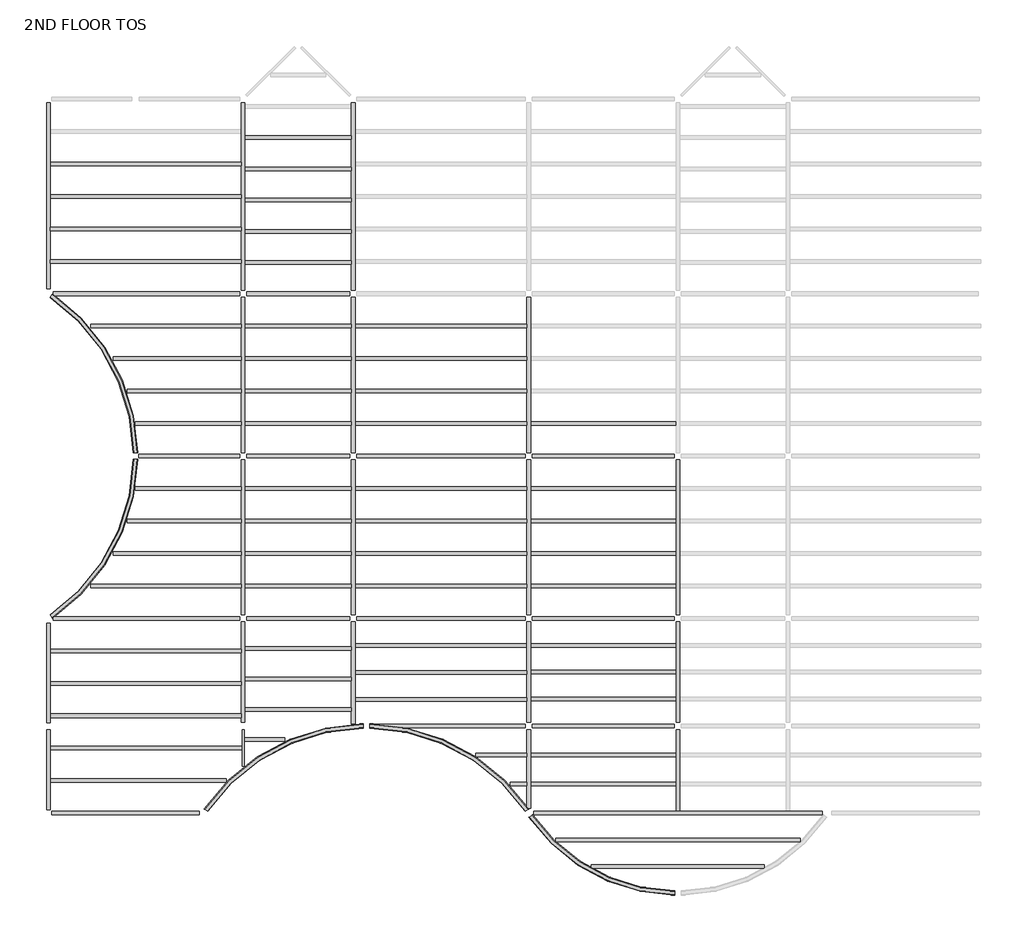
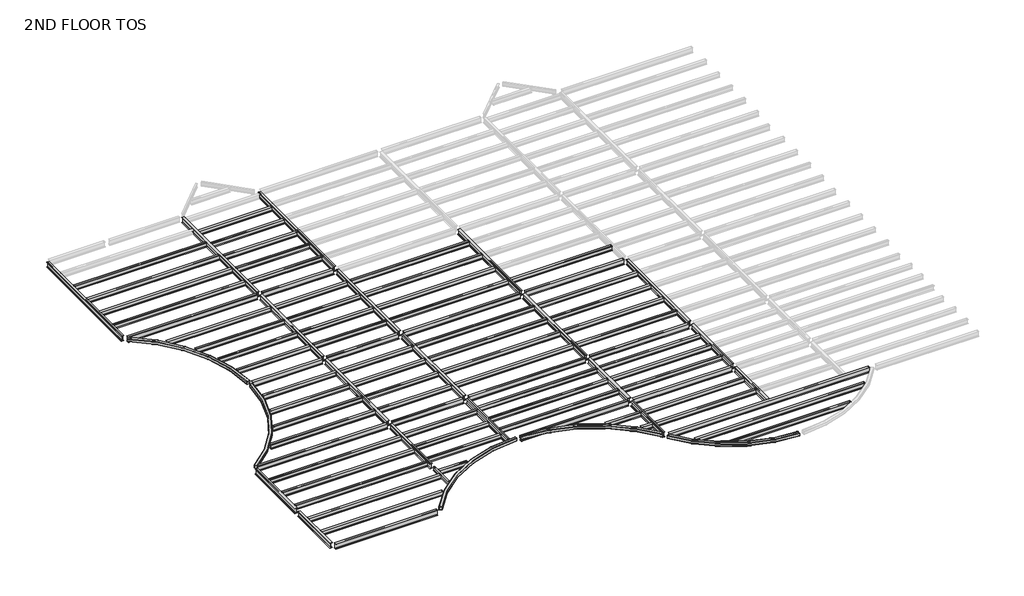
# One storey, part 1 of 2: 97 beams.
"""IFC4 building model written with IfcOpenShell, lengths in millimetres."""

from ifc_helpers import new_model, si_unit, origin, place, context, project, spatial, transform, mapped, element, save
from components import m_hss_square_hss203_2x203_2x9_5_914ff4eb, m_hss_square_hss203_2x203_2x9_5_0e3d8e6e, m_hss_square_hss203_2x203_2x9_5_16dc1c03, m_hss_square_hss203_2x203_2x9_5_18346204, m_hss_square_hss203_2x203_2x9_5_d5f1e8c4, ub_universal_beams_ub254x102x28_4e7f3726, ub_universal_beams_ub305x165x40_c4d0385b, ub_universal_beams_ub305x165x40_d3abc31d, ub_universal_beams_ub305x165x40_0c73730f, ub_universal_beams_ub305x165x40_2a963f0c, ub_universal_beams_ub305x165x40_0a5f2f96, ub_universal_beams_ub305x165x40_d1f7c369, ub_universal_beams_ub305x165x40_83d7b7d5, ub_universal_beams_ub305x165x40_729a4ea5, ub_universal_beams_ub305x165x40_71dfa851, ub_universal_beams_ub305x165x40_619b5398, ub_universal_beams_ub305x165x40_c3492db1, ub_universal_beams_ub305x165x40_8f1c350d, ub_universal_beams_ub305x165x40_3afb5f90, ub_universal_beams_ub305x165x40_767d1929, ub_universal_beams_ub305x165x40_5941ca45, ub_universal_beams_ub356x171x51_ef72dcdd, ub_universal_beams_ub356x171x51_7f80702c, ub_universal_beams_ub356x171x51_dfc36663, ub_universal_beams_ub356x171x51_405a853e, ub_universal_beams_ub356x171x51_e47b7055, ub_universal_beams_ub356x171x51_e97f8d2e, ub_universal_beams_ub356x171x51_11d6b780, ub_universal_beams_ub356x171x51_76b2d20b, ub_universal_beams_ub356x171x51_145ecd4b, ub_universal_beams_ub356x171x51_c7dff8d2, ub_universal_beams_ub356x171x51_834c6e34, ub_universal_beams_ub356x171x51_a38b99de, ub_universal_beams_ub356x171x51_d8f4cdde, ub_universal_beams_ub356x171x51_8094f821, ub_universal_beams_ub356x171x51_c03c70fb, ub_universal_beams_ub356x171x51_e661f2e4, ub_universal_beams_ub356x171x51_3ee91673, ub_universal_beams_ub356x171x51_a871b283, ub_universal_beams_ub356x171x51_741bae58

model = new_model("IFC4")

# Units and contexts
model_context = context("Model", 3, world=origin())
ifc_project = project(units=[si_unit("LENGTHUNIT", "METRE", prefix="MILLI")], contexts=[model_context])

# Site, building, storey
site = spatial("IfcSite", under=ifc_project)
building = spatial("IfcBuilding", under=site)
storey = spatial("IfcBuildingStorey", under=building, Name="2ND FLOOR TOS", Elevation=8991.6)

# Beams
placement = place(None, origin())
m_hss_square_hss203_2x203_2x9_5_shape = m_hss_square_hss203_2x203_2x9_5_914ff4eb(model_context)
element("IfcBeam", 1, ObjectType="M_HSS Square : HSS203.2X203.2X9.5", at=placement, inside=storey, context=model_context, shape_type="MappedRepresentation", body=[
    mapped(m_hss_square_hss203_2x203_2x9_5_shape, transform((22710.575, 155.575, 8890.1), x_axis=(-0.552849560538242, 0.8332810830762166, 0.0), y_axis=(-0.8332810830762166, -0.552849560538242, 0.0), z_axis=(0.0, 0.0, 1.0))),
])
m_hss_square_hss203_2x203_2x9_5_2_shape = m_hss_square_hss203_2x203_2x9_5_0e3d8e6e(model_context)
element("IfcBeam", 2, ObjectType="M_HSS Square : HSS203.2X203.2X9.5", at=placement, inside=storey, context=model_context, shape_type="MappedRepresentation", body=[
    mapped(m_hss_square_hss203_2x203_2x9_5_2_shape, transform((155.575, 9299.575, 8890.1), x_axis=(0.8332810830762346, 0.5528495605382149, 0.0), y_axis=(-0.5528495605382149, 0.8332810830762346, 0.0), z_axis=(0.0, 0.0, 1.0))),
])
m_hss_square_hss203_2x203_2x9_5_3_shape = m_hss_square_hss203_2x203_2x9_5_16dc1c03(model_context)
element("IfcBeam", 3, ObjectType="M_HSS Square : HSS203.2X203.2X9.5", at=placement, inside=storey, context=model_context, shape_type="MappedRepresentation", body=[
    mapped(m_hss_square_hss203_2x203_2x9_5_3_shape, transform((155.575, 24539.575, 8890.1), x_axis=(0.8332810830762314, -0.5528495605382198, 0.0), y_axis=(0.5528495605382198, 0.8332810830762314, 0.0), z_axis=(0.0, 0.0, 1.0))),
])
m_hss_square_hss203_2x203_2x9_5_4_shape = m_hss_square_hss203_2x203_2x9_5_18346204(model_context)
element("IfcBeam", 4, ObjectType="M_HSS Square : HSS203.2X203.2X9.5", at=placement, inside=storey, context=model_context, shape_type="MappedRepresentation", body=[
    mapped(m_hss_square_hss203_2x203_2x9_5_4_shape, transform((29734.7266693, -3601.398624, 8890.1), x_axis=(-0.9999968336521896, -0.0025164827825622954, 0.0), y_axis=(0.0025164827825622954, -0.9999968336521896, 0.0), z_axis=(0.0, 0.0, 1.0))),
])
m_hss_square_hss203_2x203_2x9_5_5_shape = m_hss_square_hss203_2x203_2x9_5_d5f1e8c4(model_context)
element("IfcBeam", 5, ObjectType="M_HSS Square : HSS203.2X203.2X9.5", at=placement, inside=storey, context=model_context, shape_type="MappedRepresentation", body=[
    mapped(m_hss_square_hss203_2x203_2x9_5_5_shape, transform((15096.4572854, 4244.5731081, 8890.1), x_axis=(-0.9999997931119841, 0.0006432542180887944, 0.0), y_axis=(-0.0006432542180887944, -0.9999997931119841, 0.0), z_axis=(0.0, 0.0, 1.0))),
])
ub_universal_beams_ub254x102x28_shape = ub_universal_beams_ub254x102x28_4e7f3726(model_context)
element("IfcBeam", 6, ObjectType="UB-Universal Beams : UB254x102x28", at=placement, inside=storey, context=model_context, shape_type="MappedRepresentation", body=[
    mapped(ub_universal_beams_ub254x102x28_shape, transform((9299.575, 3210.915913, 8861.4), x_axis=(0.0, -1.0, 0.0), y_axis=(1.0, 0.0, 0.0), z_axis=(0.0, 0.0, 1.0))),
])
ub_universal_beams_ub305x165x40_shape = ub_universal_beams_ub305x165x40_c4d0385b(model_context)
element("IfcBeam", 7, ObjectType="UB-Universal Beams : UB305x165x40", at=placement, inside=storey, context=model_context, shape_type="MappedRepresentation", body=[
    mapped(ub_universal_beams_ub305x165x40_shape, transform((4727.575, 30635.575, 8839.9), x_axis=(1.0, 0.0, 0.0), y_axis=(0.0, 1.0, 0.0), z_axis=(0.0, 0.0, 1.0))),
])
element("IfcBeam", 8, ObjectType="UB-Universal Beams : UB305x165x40", at=placement, inside=storey, context=model_context, shape_type="MappedRepresentation", body=[
    mapped(ub_universal_beams_ub305x165x40_shape, transform((4727.575, 29111.575, 8839.9), x_axis=(1.0, 0.0, 0.0), y_axis=(0.0, 1.0, 0.0), z_axis=(0.0, 0.0, 1.0))),
])
element("IfcBeam", 9, ObjectType="UB-Universal Beams : UB305x165x40", at=placement, inside=storey, context=model_context, shape_type="MappedRepresentation", body=[
    mapped(ub_universal_beams_ub305x165x40_shape, transform((4727.575, 27587.575, 8839.9), x_axis=(1.0, 0.0, 0.0), y_axis=(0.0, 1.0, 0.0), z_axis=(0.0, 0.0, 1.0))),
])
element("IfcBeam", 10, ObjectType="UB-Universal Beams : UB305x165x40", at=placement, inside=storey, context=model_context, shape_type="MappedRepresentation", body=[
    mapped(ub_universal_beams_ub305x165x40_shape, transform((4727.575, 26063.575, 8839.9), x_axis=(1.0, 0.0, 0.0), y_axis=(0.0, 1.0, 0.0), z_axis=(0.0, 0.0, 1.0))),
])
element("IfcBeam", 11, ObjectType="UB-Universal Beams : UB305x165x40", at=placement, inside=storey, context=model_context, shape_type="MappedRepresentation", body=[
    mapped(ub_universal_beams_ub305x165x40_shape, transform((4727.575, 4727.575, 8839.9), x_axis=(-1.0, 0.0, 0.0), y_axis=(0.0, -1.0, 0.0), z_axis=(0.0, 0.0, 1.0))),
])
element("IfcBeam", 12, ObjectType="UB-Universal Beams : UB305x165x40", at=placement, inside=storey, context=model_context, shape_type="MappedRepresentation", body=[
    mapped(ub_universal_beams_ub305x165x40_shape, transform((4727.575, 6251.575, 8839.9), x_axis=(-1.0, 0.0, 0.0), y_axis=(0.0, -1.0, 0.0), z_axis=(0.0, 0.0, 1.0))),
])
element("IfcBeam", 13, ObjectType="UB-Universal Beams : UB305x165x40", at=placement, inside=storey, context=model_context, shape_type="MappedRepresentation", body=[
    mapped(ub_universal_beams_ub305x165x40_shape, transform((4727.575, 7775.575, 8839.9), x_axis=(-1.0, 0.0, 0.0), y_axis=(0.0, -1.0, 0.0), z_axis=(0.0, 0.0, 1.0))),
])
ub_universal_beams_ub305x165x40_2_shape = ub_universal_beams_ub305x165x40_d3abc31d(model_context)
element("IfcBeam", 14, ObjectType="UB-Universal Beams : UB305x165x40", at=placement, inside=storey, context=model_context, shape_type="MappedRepresentation", body=[
    mapped(ub_universal_beams_ub305x165x40_2_shape, transform((11885.575, 31870.825, 8839.9), x_axis=(1.0, 0.0, 0.0), y_axis=(0.0, 1.0, 0.0), z_axis=(0.0, 0.0, 1.0))),
])
element("IfcBeam", 15, ObjectType="UB-Universal Beams : UB305x165x40", at=placement, inside=storey, context=model_context, shape_type="MappedRepresentation", body=[
    mapped(ub_universal_beams_ub305x165x40_2_shape, transform((11885.575, 30404.575, 8839.9), x_axis=(1.0, 0.0, 0.0), y_axis=(0.0, 1.0, 0.0), z_axis=(0.0, 0.0, 1.0))),
])
element("IfcBeam", 16, ObjectType="UB-Universal Beams : UB305x165x40", at=placement, inside=storey, context=model_context, shape_type="MappedRepresentation", body=[
    mapped(ub_universal_beams_ub305x165x40_2_shape, transform((11885.575, 28938.325, 8839.9), x_axis=(1.0, 0.0, 0.0), y_axis=(0.0, 1.0, 0.0), z_axis=(0.0, 0.0, 1.0))),
])
element("IfcBeam", 17, ObjectType="UB-Universal Beams : UB305x165x40", at=placement, inside=storey, context=model_context, shape_type="MappedRepresentation", body=[
    mapped(ub_universal_beams_ub305x165x40_2_shape, transform((11885.575, 27472.075, 8839.9), x_axis=(1.0, 0.0, 0.0), y_axis=(0.0, 1.0, 0.0), z_axis=(0.0, 0.0, 1.0))),
])
element("IfcBeam", 18, ObjectType="UB-Universal Beams : UB305x165x40", at=placement, inside=storey, context=model_context, shape_type="MappedRepresentation", body=[
    mapped(ub_universal_beams_ub305x165x40_2_shape, transform((11885.575, 26005.825, 8839.9), x_axis=(1.0, 0.0, 0.0), y_axis=(0.0, 1.0, 0.0), z_axis=(0.0, 0.0, 1.0))),
])
element("IfcBeam", 19, ObjectType="UB-Universal Beams : UB305x165x40", at=placement, inside=storey, context=model_context, shape_type="MappedRepresentation", body=[
    mapped(ub_universal_beams_ub305x165x40_2_shape, transform((11885.575, 23015.575, 8839.9), x_axis=(1.0, 0.0, 0.0), y_axis=(0.0, 1.0, 0.0), z_axis=(0.0, 0.0, 1.0))),
])
element("IfcBeam", 20, ObjectType="UB-Universal Beams : UB305x165x40", at=placement, inside=storey, context=model_context, shape_type="MappedRepresentation", body=[
    mapped(ub_universal_beams_ub305x165x40_2_shape, transform((11885.575, 21491.575, 8839.9), x_axis=(1.0, 0.0, 0.0), y_axis=(0.0, 1.0, 0.0), z_axis=(0.0, 0.0, 1.0))),
])
element("IfcBeam", 21, ObjectType="UB-Universal Beams : UB305x165x40", at=placement, inside=storey, context=model_context, shape_type="MappedRepresentation", body=[
    mapped(ub_universal_beams_ub305x165x40_2_shape, transform((11885.575, 19967.575, 8839.9), x_axis=(1.0, 0.0, 0.0), y_axis=(0.0, 1.0, 0.0), z_axis=(0.0, 0.0, 1.0))),
])
element("IfcBeam", 22, ObjectType="UB-Universal Beams : UB305x165x40", at=placement, inside=storey, context=model_context, shape_type="MappedRepresentation", body=[
    mapped(ub_universal_beams_ub305x165x40_2_shape, transform((11885.575, 18443.575, 8839.9), x_axis=(1.0, 0.0, 0.0), y_axis=(0.0, 1.0, 0.0), z_axis=(0.0, 0.0, 1.0))),
])
element("IfcBeam", 23, ObjectType="UB-Universal Beams : UB305x165x40", at=placement, inside=storey, context=model_context, shape_type="MappedRepresentation", body=[
    mapped(ub_universal_beams_ub305x165x40_2_shape, transform((11885.575, 15395.575, 8839.9), x_axis=(1.0, 0.0, 0.0), y_axis=(0.0, 1.0, 0.0), z_axis=(0.0, 0.0, 1.0))),
])
element("IfcBeam", 24, ObjectType="UB-Universal Beams : UB305x165x40", at=placement, inside=storey, context=model_context, shape_type="MappedRepresentation", body=[
    mapped(ub_universal_beams_ub305x165x40_2_shape, transform((11885.575, 13871.575, 8839.9), x_axis=(1.0, 0.0, 0.0), y_axis=(0.0, 1.0, 0.0), z_axis=(0.0, 0.0, 1.0))),
])
element("IfcBeam", 25, ObjectType="UB-Universal Beams : UB305x165x40", at=placement, inside=storey, context=model_context, shape_type="MappedRepresentation", body=[
    mapped(ub_universal_beams_ub305x165x40_2_shape, transform((11885.575, 12347.575, 8839.9), x_axis=(1.0, 0.0, 0.0), y_axis=(0.0, 1.0, 0.0), z_axis=(0.0, 0.0, 1.0))),
])
element("IfcBeam", 26, ObjectType="UB-Universal Beams : UB305x165x40", at=placement, inside=storey, context=model_context, shape_type="MappedRepresentation", body=[
    mapped(ub_universal_beams_ub305x165x40_2_shape, transform((11885.575, 10823.575, 8839.9), x_axis=(1.0, 0.0, 0.0), y_axis=(0.0, 1.0, 0.0), z_axis=(0.0, 0.0, 1.0))),
])
element("IfcBeam", 27, ObjectType="UB-Universal Beams : UB305x165x40", at=placement, inside=storey, context=model_context, shape_type="MappedRepresentation", body=[
    mapped(ub_universal_beams_ub305x165x40_2_shape, transform((11885.575, 5026.1840956, 8839.9), x_axis=(-1.0, 0.0, 0.0), y_axis=(0.0, -1.0, 0.0), z_axis=(0.0, 0.0, 1.0))),
])
element("IfcBeam", 28, ObjectType="UB-Universal Beams : UB305x165x40", at=placement, inside=storey, context=model_context, shape_type="MappedRepresentation", body=[
    mapped(ub_universal_beams_ub305x165x40_2_shape, transform((11885.575, 6450.6477304, 8839.9), x_axis=(-1.0, 0.0, 0.0), y_axis=(0.0, -1.0, 0.0), z_axis=(0.0, 0.0, 1.0))),
])
element("IfcBeam", 29, ObjectType="UB-Universal Beams : UB305x165x40", at=placement, inside=storey, context=model_context, shape_type="MappedRepresentation", body=[
    mapped(ub_universal_beams_ub305x165x40_2_shape, transform((11885.575, 7875.1113652, 8839.9), x_axis=(-1.0, 0.0, 0.0), y_axis=(0.0, -1.0, 0.0), z_axis=(0.0, 0.0, 1.0))),
])
ub_universal_beams_ub305x165x40_3_shape = ub_universal_beams_ub305x165x40_0c73730f(model_context)
element("IfcBeam", 30, ObjectType="UB-Universal Beams : UB305x165x40", at=placement, inside=storey, context=model_context, shape_type="MappedRepresentation", body=[
    mapped(ub_universal_beams_ub305x165x40_3_shape, transform((18591.075, 5492.5943214, 8839.9), x_axis=(-1.0, 0.0, 0.0), y_axis=(0.0, -1.0, 0.0), z_axis=(0.0, 0.0, 1.0))),
])
element("IfcBeam", 31, ObjectType="UB-Universal Beams : UB305x165x40", at=placement, inside=storey, context=model_context, shape_type="MappedRepresentation", body=[
    mapped(ub_universal_beams_ub305x165x40_3_shape, transform((18591.075, 6761.5878809, 8839.9), x_axis=(-1.0, 0.0, 0.0), y_axis=(0.0, -1.0, 0.0), z_axis=(0.0, 0.0, 1.0))),
])
element("IfcBeam", 32, ObjectType="UB-Universal Beams : UB305x165x40", at=placement, inside=storey, context=model_context, shape_type="MappedRepresentation", body=[
    mapped(ub_universal_beams_ub305x165x40_3_shape, transform((18591.075, 8030.5814405, 8839.9), x_axis=(-1.0, 0.0, 0.0), y_axis=(0.0, -1.0, 0.0), z_axis=(0.0, 0.0, 1.0))),
])
element("IfcBeam", 33, ObjectType="UB-Universal Beams : UB305x165x40", at=placement, inside=storey, context=model_context, shape_type="MappedRepresentation", body=[
    mapped(ub_universal_beams_ub305x165x40_3_shape, transform((18591.075, 15395.575, 8839.9), x_axis=(1.0, 0.0, 0.0), y_axis=(0.0, 1.0, 0.0), z_axis=(0.0, 0.0, 1.0))),
])
element("IfcBeam", 34, ObjectType="UB-Universal Beams : UB305x165x40", at=placement, inside=storey, context=model_context, shape_type="MappedRepresentation", body=[
    mapped(ub_universal_beams_ub305x165x40_3_shape, transform((18591.075, 13871.575, 8839.9), x_axis=(1.0, 0.0, 0.0), y_axis=(0.0, 1.0, 0.0), z_axis=(0.0, 0.0, 1.0))),
])
element("IfcBeam", 35, ObjectType="UB-Universal Beams : UB305x165x40", at=placement, inside=storey, context=model_context, shape_type="MappedRepresentation", body=[
    mapped(ub_universal_beams_ub305x165x40_3_shape, transform((18591.075, 12347.575, 8839.9), x_axis=(1.0, 0.0, 0.0), y_axis=(0.0, 1.0, 0.0), z_axis=(0.0, 0.0, 1.0))),
])
element("IfcBeam", 36, ObjectType="UB-Universal Beams : UB305x165x40", at=placement, inside=storey, context=model_context, shape_type="MappedRepresentation", body=[
    mapped(ub_universal_beams_ub305x165x40_3_shape, transform((18591.075, 10823.575, 8839.9), x_axis=(1.0, 0.0, 0.0), y_axis=(0.0, 1.0, 0.0), z_axis=(0.0, 0.0, 1.0))),
])
element("IfcBeam", 37, ObjectType="UB-Universal Beams : UB305x165x40", at=placement, inside=storey, context=model_context, shape_type="MappedRepresentation", body=[
    mapped(ub_universal_beams_ub305x165x40_3_shape, transform((18591.075, 23015.575, 8839.9), x_axis=(1.0, 0.0, 0.0), y_axis=(0.0, 1.0, 0.0), z_axis=(0.0, 0.0, 1.0))),
])
element("IfcBeam", 38, ObjectType="UB-Universal Beams : UB305x165x40", at=placement, inside=storey, context=model_context, shape_type="MappedRepresentation", body=[
    mapped(ub_universal_beams_ub305x165x40_3_shape, transform((18591.075, 21491.575, 8839.9), x_axis=(1.0, 0.0, 0.0), y_axis=(0.0, 1.0, 0.0), z_axis=(0.0, 0.0, 1.0))),
])
element("IfcBeam", 39, ObjectType="UB-Universal Beams : UB305x165x40", at=placement, inside=storey, context=model_context, shape_type="MappedRepresentation", body=[
    mapped(ub_universal_beams_ub305x165x40_3_shape, transform((18591.075, 19967.575, 8839.9), x_axis=(1.0, 0.0, 0.0), y_axis=(0.0, 1.0, 0.0), z_axis=(0.0, 0.0, 1.0))),
])
element("IfcBeam", 40, ObjectType="UB-Universal Beams : UB305x165x40", at=placement, inside=storey, context=model_context, shape_type="MappedRepresentation", body=[
    mapped(ub_universal_beams_ub305x165x40_3_shape, transform((18591.075, 18443.575, 8839.9), x_axis=(1.0, 0.0, 0.0), y_axis=(0.0, 1.0, 0.0), z_axis=(0.0, 0.0, 1.0))),
])
ub_universal_beams_ub305x165x40_4_shape = ub_universal_beams_ub305x165x40_2a963f0c(model_context)
element("IfcBeam", 41, ObjectType="UB-Universal Beams : UB305x165x40", at=placement, inside=storey, context=model_context, shape_type="MappedRepresentation", body=[
    mapped(ub_universal_beams_ub305x165x40_4_shape, transform((26211.075, 18443.575, 8839.9), x_axis=(1.0, 0.0, 0.0), y_axis=(0.0, 1.0, 0.0), z_axis=(0.0, 0.0, 1.0))),
])
element("IfcBeam", 42, ObjectType="UB-Universal Beams : UB305x165x40", at=placement, inside=storey, context=model_context, shape_type="MappedRepresentation", body=[
    mapped(ub_universal_beams_ub305x165x40_4_shape, transform((26211.075, 15395.575, 8839.9), x_axis=(1.0, 0.0, 0.0), y_axis=(0.0, 1.0, 0.0), z_axis=(0.0, 0.0, 1.0))),
])
element("IfcBeam", 43, ObjectType="UB-Universal Beams : UB305x165x40", at=placement, inside=storey, context=model_context, shape_type="MappedRepresentation", body=[
    mapped(ub_universal_beams_ub305x165x40_4_shape, transform((26211.075, 13871.575, 8839.9), x_axis=(1.0, 0.0, 0.0), y_axis=(0.0, 1.0, 0.0), z_axis=(0.0, 0.0, 1.0))),
])
element("IfcBeam", 44, ObjectType="UB-Universal Beams : UB305x165x40", at=placement, inside=storey, context=model_context, shape_type="MappedRepresentation", body=[
    mapped(ub_universal_beams_ub305x165x40_4_shape, transform((26211.075, 12347.575, 8839.9), x_axis=(1.0, 0.0, 0.0), y_axis=(0.0, 1.0, 0.0), z_axis=(0.0, 0.0, 1.0))),
])
element("IfcBeam", 45, ObjectType="UB-Universal Beams : UB305x165x40", at=placement, inside=storey, context=model_context, shape_type="MappedRepresentation", body=[
    mapped(ub_universal_beams_ub305x165x40_4_shape, transform((26211.075, 10823.575, 8839.9), x_axis=(1.0, 0.0, 0.0), y_axis=(0.0, 1.0, 0.0), z_axis=(0.0, 0.0, 1.0))),
])
element("IfcBeam", 46, ObjectType="UB-Universal Beams : UB305x165x40", at=placement, inside=storey, context=model_context, shape_type="MappedRepresentation", body=[
    mapped(ub_universal_beams_ub305x165x40_4_shape, transform((26211.075, 5508.325, 8839.9), x_axis=(-1.0, 0.0, 0.0), y_axis=(0.0, -1.0, 0.0), z_axis=(0.0, 0.0, 1.0))),
])
element("IfcBeam", 47, ObjectType="UB-Universal Beams : UB305x165x40", at=placement, inside=storey, context=model_context, shape_type="MappedRepresentation", body=[
    mapped(ub_universal_beams_ub305x165x40_4_shape, transform((26211.075, 6772.075, 8839.9), x_axis=(-1.0, 0.0, 0.0), y_axis=(0.0, -1.0, 0.0), z_axis=(0.0, 0.0, 1.0))),
])
element("IfcBeam", 48, ObjectType="UB-Universal Beams : UB305x165x40", at=placement, inside=storey, context=model_context, shape_type="MappedRepresentation", body=[
    mapped(ub_universal_beams_ub305x165x40_4_shape, transform((26211.075, 8035.825, 8839.9), x_axis=(-1.0, 0.0, 0.0), y_axis=(0.0, -1.0, 0.0), z_axis=(0.0, 0.0, 1.0))),
])
element("IfcBeam", 49, ObjectType="UB-Universal Beams : UB305x165x40", at=placement, inside=storey, context=model_context, shape_type="MappedRepresentation", body=[
    mapped(ub_universal_beams_ub305x165x40_4_shape, transform((26211.075, 1518.575, 8839.9), x_axis=(-1.0, 0.0, 0.0), y_axis=(0.0, -1.0, 0.0), z_axis=(0.0, 0.0, 1.0))),
])
element("IfcBeam", 50, ObjectType="UB-Universal Beams : UB305x165x40", at=placement, inside=storey, context=model_context, shape_type="MappedRepresentation", body=[
    mapped(ub_universal_beams_ub305x165x40_4_shape, transform((26211.075, 2881.575, 8839.9), x_axis=(-1.0, 0.0, 0.0), y_axis=(0.0, -1.0, 0.0), z_axis=(0.0, 0.0, 1.0))),
])
ub_universal_beams_ub305x165x40_5_shape = ub_universal_beams_ub305x165x40_0a5f2f96(model_context)
element("IfcBeam", 51, ObjectType="UB-Universal Beams : UB305x165x40", at=placement, inside=storey, context=model_context, shape_type="MappedRepresentation", body=[
    mapped(ub_universal_beams_ub305x165x40_5_shape, transform((29713.575, -2349.0918253, 8839.9), x_axis=(-1.0, 0.0, 0.0), y_axis=(0.0, -1.0, 0.0), z_axis=(0.0, 0.0, 1.0))),
])
ub_universal_beams_ub305x165x40_6_shape = ub_universal_beams_ub305x165x40_d1f7c369(model_context)
element("IfcBeam", 52, ObjectType="UB-Universal Beams : UB305x165x40", at=placement, inside=storey, context=model_context, shape_type="MappedRepresentation", body=[
    mapped(ub_universal_beams_ub305x165x40_6_shape, transform((29713.575, -1096.7584126, 8839.9), x_axis=(-1.0, 0.0, 0.0), y_axis=(0.0, -1.0, 0.0), z_axis=(0.0, 0.0, 1.0))),
])
ub_universal_beams_ub305x165x40_7_shape = ub_universal_beams_ub305x165x40_83d7b7d5(model_context)
element("IfcBeam", 53, ObjectType="UB-Universal Beams : UB305x165x40", at=placement, inside=storey, context=model_context, shape_type="MappedRepresentation", body=[
    mapped(ub_universal_beams_ub305x165x40_7_shape, transform((22157.3041106, 1518.575, 8839.9), x_axis=(-1.0, 0.0, 0.0), y_axis=(0.0, -1.0, 0.0), z_axis=(0.0, 0.0, 1.0))),
])
ub_universal_beams_ub305x165x40_8_shape = ub_universal_beams_ub305x165x40_729a4ea5(model_context)
element("IfcBeam", 54, ObjectType="UB-Universal Beams : UB305x165x40", at=placement, inside=storey, context=model_context, shape_type="MappedRepresentation", body=[
    mapped(ub_universal_beams_ub305x165x40_8_shape, transform((21302.1545844, 2881.575, 8839.9), x_axis=(-1.0, 0.0, 0.0), y_axis=(0.0, -1.0, 0.0), z_axis=(0.0, 0.0, 1.0))),
])
ub_universal_beams_ub305x165x40_9_shape = ub_universal_beams_ub305x165x40_71dfa851(model_context)
element("IfcBeam", 55, ObjectType="UB-Universal Beams : UB305x165x40", at=placement, inside=storey, context=model_context, shape_type="MappedRepresentation", body=[
    mapped(ub_universal_beams_ub305x165x40_9_shape, transform((10511.0323166, 3601.7204608, 8839.9), x_axis=(-1.0, 0.0, 0.0), y_axis=(0.0, -1.0, 0.0), z_axis=(0.0, 0.0, 1.0))),
])
ub_universal_beams_ub305x165x40_10_shape = ub_universal_beams_ub305x165x40_619b5398(model_context)
element("IfcBeam", 56, ObjectType="UB-Universal Beams : UB305x165x40", at=placement, inside=storey, context=model_context, shape_type="MappedRepresentation", body=[
    mapped(ub_universal_beams_ub305x165x40_10_shape, transform((4447.6838282, 1679.575, 8839.9), x_axis=(-1.0, 0.0, 0.0), y_axis=(0.0, -1.0, 0.0), z_axis=(0.0, 0.0, 1.0))),
])
ub_universal_beams_ub305x165x40_11_shape = ub_universal_beams_ub305x165x40_c3492db1(model_context)
element("IfcBeam", 57, ObjectType="UB-Universal Beams : UB305x165x40", at=placement, inside=storey, context=model_context, shape_type="MappedRepresentation", body=[
    mapped(ub_universal_beams_ub305x165x40_11_shape, transform((4727.575, 3203.575, 8839.9), x_axis=(-1.0, 0.0, 0.0), y_axis=(0.0, -1.0, 0.0), z_axis=(0.0, 0.0, 1.0))),
])
ub_universal_beams_ub305x165x40_12_shape = ub_universal_beams_ub305x165x40_8f1c350d(model_context)
element("IfcBeam", 58, ObjectType="UB-Universal Beams : UB305x165x40", at=placement, inside=storey, context=model_context, shape_type="MappedRepresentation", body=[
    mapped(ub_universal_beams_ub305x165x40_12_shape, transform((6708.1318611, 15395.575, 8839.9), x_axis=(1.0, 0.0, 0.0), y_axis=(0.0, 1.0, 0.0), z_axis=(0.0, 0.0, 1.0))),
])
element("IfcBeam", 59, ObjectType="UB-Universal Beams : UB305x165x40", at=placement, inside=storey, context=model_context, shape_type="MappedRepresentation", body=[
    mapped(ub_universal_beams_ub305x165x40_12_shape, transform((6708.1318611, 18443.575, 8839.9), x_axis=(1.0, 0.0, 0.0), y_axis=(0.0, 1.0, 0.0), z_axis=(0.0, 0.0, 1.0))),
])
ub_universal_beams_ub305x165x40_13_shape = ub_universal_beams_ub305x165x40_3afb5f90(model_context)
element("IfcBeam", 60, ObjectType="UB-Universal Beams : UB305x165x40", at=placement, inside=storey, context=model_context, shape_type="MappedRepresentation", body=[
    mapped(ub_universal_beams_ub305x165x40_13_shape, transform((6510.6153272, 13871.575, 8839.9), x_axis=(1.0, 0.0, 0.0), y_axis=(0.0, 1.0, 0.0), z_axis=(0.0, 0.0, 1.0))),
])
element("IfcBeam", 61, ObjectType="UB-Universal Beams : UB305x165x40", at=placement, inside=storey, context=model_context, shape_type="MappedRepresentation", body=[
    mapped(ub_universal_beams_ub305x165x40_13_shape, transform((6510.6153272, 19967.575, 8839.9), x_axis=(1.0, 0.0, 0.0), y_axis=(0.0, 1.0, 0.0), z_axis=(0.0, 0.0, 1.0))),
])
ub_universal_beams_ub305x165x40_14_shape = ub_universal_beams_ub305x165x40_767d1929(model_context)
element("IfcBeam", 62, ObjectType="UB-Universal Beams : UB305x165x40", at=placement, inside=storey, context=model_context, shape_type="MappedRepresentation", body=[
    mapped(ub_universal_beams_ub305x165x40_14_shape, transform((6159.5874928, 12347.575, 8839.9), x_axis=(1.0, 0.0, 0.0), y_axis=(0.0, 1.0, 0.0), z_axis=(0.0, 0.0, 1.0))),
])
element("IfcBeam", 63, ObjectType="UB-Universal Beams : UB305x165x40", at=placement, inside=storey, context=model_context, shape_type="MappedRepresentation", body=[
    mapped(ub_universal_beams_ub305x165x40_14_shape, transform((6159.5874928, 21491.575, 8839.9), x_axis=(1.0, 0.0, 0.0), y_axis=(0.0, 1.0, 0.0), z_axis=(0.0, 0.0, 1.0))),
])
ub_universal_beams_ub305x165x40_15_shape = ub_universal_beams_ub305x165x40_5941ca45(model_context)
element("IfcBeam", 64, ObjectType="UB-Universal Beams : UB305x165x40", at=placement, inside=storey, context=model_context, shape_type="MappedRepresentation", body=[
    mapped(ub_universal_beams_ub305x165x40_15_shape, transform((5607.9405309, 10823.575, 8839.9), x_axis=(1.0, 0.0, 0.0), y_axis=(0.0, 1.0, 0.0), z_axis=(0.0, 0.0, 1.0))),
])
element("IfcBeam", 65, ObjectType="UB-Universal Beams : UB305x165x40", at=placement, inside=storey, context=model_context, shape_type="MappedRepresentation", body=[
    mapped(ub_universal_beams_ub305x165x40_15_shape, transform((5607.9405309, 23015.575, 8839.9), x_axis=(1.0, 0.0, 0.0), y_axis=(0.0, 1.0, 0.0), z_axis=(0.0, 0.0, 1.0))),
])
ub_universal_beams_ub356x171x51_shape = ub_universal_beams_ub356x171x51_ef72dcdd(model_context)
element("IfcBeam", 66, ObjectType="UB-Universal Beams : UB356x171x51", at=placement, inside=storey, context=model_context, shape_type="MappedRepresentation", body=[
    mapped(ub_universal_beams_ub356x171x51_shape, transform((9299.575, 6772.075, 8814.1), x_axis=(0.0, -1.0, 0.0), y_axis=(1.0, 0.0, 0.0), z_axis=(0.0, 0.0, 1.0))),
])
element("IfcBeam", 67, ObjectType="UB-Universal Beams : UB356x171x51", at=placement, inside=storey, context=model_context, shape_type="MappedRepresentation", body=[
    mapped(ub_universal_beams_ub356x171x51_shape, transform((29711.575, 6772.075, 8814.1), x_axis=(0.0, 1.0, 0.0), y_axis=(-1.0, 0.0, 0.0), z_axis=(0.0, 0.0, 1.0))),
])
element("IfcBeam", 68, ObjectType="UB-Universal Beams : UB356x171x51", at=placement, inside=storey, context=model_context, shape_type="MappedRepresentation", body=[
    mapped(ub_universal_beams_ub356x171x51_shape, transform((22710.575, 6772.075, 8814.1), x_axis=(0.0, -1.0, 0.0), y_axis=(1.0, 0.0, 0.0), z_axis=(0.0, 0.0, 1.0))),
])
ub_universal_beams_ub356x171x51_2_shape = ub_universal_beams_ub356x171x51_7f80702c(model_context)
element("IfcBeam", 69, ObjectType="UB-Universal Beams : UB356x171x51", at=placement, inside=storey, context=model_context, shape_type="MappedRepresentation", body=[
    mapped(ub_universal_beams_ub356x171x51_2_shape, transform((3813.075, 155.575, 8814.1), x_axis=(-1.0, 0.0, 0.0), y_axis=(0.0, -1.0, 0.0), z_axis=(0.0, 0.0, 1.0))),
])
ub_universal_beams_ub356x171x51_3_shape = ub_universal_beams_ub356x171x51_dfc36663(model_context)
element("IfcBeam", 70, ObjectType="UB-Universal Beams : UB356x171x51", at=placement, inside=storey, context=model_context, shape_type="MappedRepresentation", body=[
    mapped(ub_universal_beams_ub356x171x51_3_shape, transform((155.575, 2200.075, 8814.1), x_axis=(0.0, 1.0, 0.0), y_axis=(-1.0, 0.0, 0.0), z_axis=(0.0, 0.0, 1.0))),
])
ub_universal_beams_ub356x171x51_4_shape = ub_universal_beams_ub356x171x51_405a853e(model_context)
element("IfcBeam", 71, ObjectType="UB-Universal Beams : UB356x171x51", at=placement, inside=storey, context=model_context, shape_type="MappedRepresentation", body=[
    mapped(ub_universal_beams_ub356x171x51_4_shape, transform((155.575, 6772.075, 8814.1), x_axis=(0.0, 1.0, 0.0), y_axis=(-1.0, 0.0, 0.0), z_axis=(0.0, 0.0, 1.0))),
])
ub_universal_beams_ub356x171x51_5_shape = ub_universal_beams_ub356x171x51_e47b7055(model_context)
element("IfcBeam", 72, ObjectType="UB-Universal Beams : UB356x171x51", at=placement, inside=storey, context=model_context, shape_type="MappedRepresentation", body=[
    mapped(ub_universal_beams_ub356x171x51_5_shape, transform((155.575, 29111.575, 8814.1), x_axis=(0.0, 1.0, 0.0), y_axis=(-1.0, 0.0, 0.0), z_axis=(0.0, 0.0, 1.0))),
])
ub_universal_beams_ub356x171x51_6_shape = ub_universal_beams_ub356x171x51_e97f8d2e(model_context)
element("IfcBeam", 73, ObjectType="UB-Universal Beams : UB356x171x51", at=placement, inside=storey, context=model_context, shape_type="MappedRepresentation", body=[
    mapped(ub_universal_beams_ub356x171x51_6_shape, transform((4727.575, 24539.575, 8814.1), x_axis=(1.0, 0.0, 0.0), y_axis=(0.0, 1.0, 0.0), z_axis=(0.0, 0.0, 1.0))),
])
ub_universal_beams_ub356x171x51_7_shape = ub_universal_beams_ub356x171x51_11d6b780(model_context)
element("IfcBeam", 74, ObjectType="UB-Universal Beams : UB356x171x51", at=placement, inside=storey, context=model_context, shape_type="MappedRepresentation", body=[
    mapped(ub_universal_beams_ub356x171x51_7_shape, transform((11885.575, 24539.575, 8814.1), x_axis=(1.0, 0.0, 0.0), y_axis=(0.0, 1.0, 0.0), z_axis=(0.0, 0.0, 1.0))),
])
element("IfcBeam", 75, ObjectType="UB-Universal Beams : UB356x171x51", at=placement, inside=storey, context=model_context, shape_type="MappedRepresentation", body=[
    mapped(ub_universal_beams_ub356x171x51_7_shape, transform((11885.575, 9299.575, 8814.1), x_axis=(-1.0, 0.0, 0.0), y_axis=(0.0, -1.0, 0.0), z_axis=(0.0, 0.0, 1.0))),
])
element("IfcBeam", 76, ObjectType="UB-Universal Beams : UB356x171x51", at=placement, inside=storey, context=model_context, shape_type="MappedRepresentation", body=[
    mapped(ub_universal_beams_ub356x171x51_7_shape, transform((11885.575, 16919.575, 8814.1), x_axis=(1.0, 0.0, 0.0), y_axis=(0.0, 1.0, 0.0), z_axis=(0.0, 0.0, 1.0))),
])
ub_universal_beams_ub356x171x51_8_shape = ub_universal_beams_ub356x171x51_76b2d20b(model_context)
element("IfcBeam", 77, ObjectType="UB-Universal Beams : UB356x171x51", at=placement, inside=storey, context=model_context, shape_type="MappedRepresentation", body=[
    mapped(ub_universal_beams_ub356x171x51_8_shape, transform((18591.075, 9299.575, 8814.1), x_axis=(-1.0, 0.0, 0.0), y_axis=(0.0, -1.0, 0.0), z_axis=(0.0, 0.0, 1.0))),
])
element("IfcBeam", 78, ObjectType="UB-Universal Beams : UB356x171x51", at=placement, inside=storey, context=model_context, shape_type="MappedRepresentation", body=[
    mapped(ub_universal_beams_ub356x171x51_8_shape, transform((18591.075, 16919.575, 8814.1), x_axis=(1.0, 0.0, 0.0), y_axis=(0.0, 1.0, 0.0), z_axis=(0.0, 0.0, 1.0))),
])
ub_universal_beams_ub356x171x51_9_shape = ub_universal_beams_ub356x171x51_145ecd4b(model_context)
element("IfcBeam", 79, ObjectType="UB-Universal Beams : UB356x171x51", at=placement, inside=storey, context=model_context, shape_type="MappedRepresentation", body=[
    mapped(ub_universal_beams_ub356x171x51_9_shape, transform((26211.075, 9299.575, 8814.1), x_axis=(-1.0, 0.0, 0.0), y_axis=(0.0, -1.0, 0.0), z_axis=(0.0, 0.0, 1.0))),
])
element("IfcBeam", 80, ObjectType="UB-Universal Beams : UB356x171x51", at=placement, inside=storey, context=model_context, shape_type="MappedRepresentation", body=[
    mapped(ub_universal_beams_ub356x171x51_9_shape, transform((26211.075, 16919.575, 8814.1), x_axis=(1.0, 0.0, 0.0), y_axis=(0.0, 1.0, 0.0), z_axis=(0.0, 0.0, 1.0))),
])
element("IfcBeam", 81, ObjectType="UB-Universal Beams : UB356x171x51", at=placement, inside=storey, context=model_context, shape_type="MappedRepresentation", body=[
    mapped(ub_universal_beams_ub356x171x51_9_shape, transform((26211.075, 4244.575, 8814.1), x_axis=(-1.0, 0.0, 0.0), y_axis=(0.0, -1.0, 0.0), z_axis=(0.0, 0.0, 1.0))),
])
ub_universal_beams_ub356x171x51_10_shape = ub_universal_beams_ub356x171x51_c7dff8d2(model_context)
element("IfcBeam", 82, ObjectType="UB-Universal Beams : UB356x171x51", at=placement, inside=storey, context=model_context, shape_type="MappedRepresentation", body=[
    mapped(ub_universal_beams_ub356x171x51_10_shape, transform((4727.575, 9299.575, 8814.1), x_axis=(-1.0, 0.0, 0.0), y_axis=(0.0, -1.0, 0.0), z_axis=(0.0, 0.0, 1.0))),
])
ub_universal_beams_ub356x171x51_11_shape = ub_universal_beams_ub356x171x51_834c6e34(model_context)
element("IfcBeam", 83, ObjectType="UB-Universal Beams : UB356x171x51", at=placement, inside=storey, context=model_context, shape_type="MappedRepresentation", body=[
    mapped(ub_universal_beams_ub356x171x51_11_shape, transform((14471.575, 6761.5878809, 8814.1), x_axis=(0.0, -1.0, 0.0), y_axis=(1.0, 0.0, 0.0), z_axis=(0.0, 0.0, 1.0))),
])
ub_universal_beams_ub356x171x51_12_shape = ub_universal_beams_ub356x171x51_a38b99de(model_context)
element("IfcBeam", 84, ObjectType="UB-Universal Beams : UB356x171x51", at=placement, inside=storey, context=model_context, shape_type="MappedRepresentation", body=[
    mapped(ub_universal_beams_ub356x171x51_12_shape, transform((9299.575, 13109.575, 8814.1), x_axis=(0.0, 1.0, 0.0), y_axis=(-1.0, 0.0, 0.0), z_axis=(0.0, 0.0, 1.0))),
])
element("IfcBeam", 85, ObjectType="UB-Universal Beams : UB356x171x51", at=placement, inside=storey, context=model_context, shape_type="MappedRepresentation", body=[
    mapped(ub_universal_beams_ub356x171x51_12_shape, transform((9299.575, 20729.575, 8814.1), x_axis=(0.0, 1.0, 0.0), y_axis=(-1.0, 0.0, 0.0), z_axis=(0.0, 0.0, 1.0))),
])
element("IfcBeam", 86, ObjectType="UB-Universal Beams : UB356x171x51", at=placement, inside=storey, context=model_context, shape_type="MappedRepresentation", body=[
    mapped(ub_universal_beams_ub356x171x51_12_shape, transform((14471.575, 20729.575, 8814.1), x_axis=(0.0, -1.0, 0.0), y_axis=(1.0, 0.0, 0.0), z_axis=(0.0, 0.0, 1.0))),
])
element("IfcBeam", 87, ObjectType="UB-Universal Beams : UB356x171x51", at=placement, inside=storey, context=model_context, shape_type="MappedRepresentation", body=[
    mapped(ub_universal_beams_ub356x171x51_12_shape, transform((14471.575, 13109.575, 8814.1), x_axis=(0.0, -1.0, 0.0), y_axis=(1.0, 0.0, 0.0), z_axis=(0.0, 0.0, 1.0))),
])
element("IfcBeam", 88, ObjectType="UB-Universal Beams : UB356x171x51", at=placement, inside=storey, context=model_context, shape_type="MappedRepresentation", body=[
    mapped(ub_universal_beams_ub356x171x51_12_shape, transform((22710.575, 20729.575, 8814.1), x_axis=(0.0, -1.0, 0.0), y_axis=(1.0, 0.0, 0.0), z_axis=(0.0, 0.0, 1.0))),
])
element("IfcBeam", 89, ObjectType="UB-Universal Beams : UB356x171x51", at=placement, inside=storey, context=model_context, shape_type="MappedRepresentation", body=[
    mapped(ub_universal_beams_ub356x171x51_12_shape, transform((22710.575, 13109.575, 8814.1), x_axis=(0.0, -1.0, 0.0), y_axis=(1.0, 0.0, 0.0), z_axis=(0.0, 0.0, 1.0))),
])
element("IfcBeam", 90, ObjectType="UB-Universal Beams : UB356x171x51", at=placement, inside=storey, context=model_context, shape_type="MappedRepresentation", body=[
    mapped(ub_universal_beams_ub356x171x51_12_shape, transform((29711.575, 13109.575, 8814.1), x_axis=(0.0, 1.0, 0.0), y_axis=(-1.0, 0.0, 0.0), z_axis=(0.0, 0.0, 1.0))),
])
ub_universal_beams_ub356x171x51_13_shape = ub_universal_beams_ub356x171x51_d8f4cdde(model_context)
element("IfcBeam", 91, ObjectType="UB-Universal Beams : UB356x171x51", at=placement, inside=storey, context=model_context, shape_type="MappedRepresentation", body=[
    mapped(ub_universal_beams_ub356x171x51_13_shape, transform((9299.575, 29111.575, 8814.1), x_axis=(0.0, 1.0, 0.0), y_axis=(-1.0, 0.0, 0.0), z_axis=(0.0, 0.0, 1.0))),
])
ub_universal_beams_ub356x171x51_14_shape = ub_universal_beams_ub356x171x51_8094f821(model_context)
element("IfcBeam", 92, ObjectType="UB-Universal Beams : UB356x171x51", at=placement, inside=storey, context=model_context, shape_type="MappedRepresentation", body=[
    mapped(ub_universal_beams_ub356x171x51_14_shape, transform((6772.075, 16919.575, 8814.1), x_axis=(1.0, 0.0, 0.0), y_axis=(0.0, 1.0, 0.0), z_axis=(0.0, 0.0, 1.0))),
])
ub_universal_beams_ub356x171x51_15_shape = ub_universal_beams_ub356x171x51_c03c70fb(model_context)
element("IfcBeam", 93, ObjectType="UB-Universal Beams : UB356x171x51", at=placement, inside=storey, context=model_context, shape_type="MappedRepresentation", body=[
    mapped(ub_universal_beams_ub356x171x51_15_shape, transform((14471.575, 29111.575, 8814.1), x_axis=(0.0, -1.0, 0.0), y_axis=(1.0, 0.0, 0.0), z_axis=(0.0, 0.0, 1.0))),
])
ub_universal_beams_ub356x171x51_16_shape = ub_universal_beams_ub356x171x51_e661f2e4(model_context)
element("IfcBeam", 94, ObjectType="UB-Universal Beams : UB356x171x51", at=placement, inside=storey, context=model_context, shape_type="MappedRepresentation", body=[
    mapped(ub_universal_beams_ub356x171x51_16_shape, transform((29713.575, 155.575, 8814.1), x_axis=(-1.0, 0.0, 0.0), y_axis=(0.0, -1.0, 0.0), z_axis=(0.0, 0.0, 1.0))),
])
ub_universal_beams_ub356x171x51_17_shape = ub_universal_beams_ub356x171x51_3ee91673(model_context)
element("IfcBeam", 95, ObjectType="UB-Universal Beams : UB356x171x51", at=placement, inside=storey, context=model_context, shape_type="MappedRepresentation", body=[
    mapped(ub_universal_beams_ub356x171x51_17_shape, transform((18900.575, 4244.575, 8814.1), x_axis=(-1.0, 0.0, 0.0), y_axis=(0.0, -1.0, 0.0), z_axis=(0.0, 0.0, 1.0))),
])
ub_universal_beams_ub356x171x51_18_shape = ub_universal_beams_ub356x171x51_a871b283(model_context)
element("IfcBeam", 96, ObjectType="UB-Universal Beams : UB356x171x51", at=placement, inside=storey, context=model_context, shape_type="MappedRepresentation", body=[
    mapped(ub_universal_beams_ub356x171x51_18_shape, transform((22710.575, 2200.075, 8814.1), x_axis=(0.0, -1.0, 0.0), y_axis=(1.0, 0.0, 0.0), z_axis=(0.0, 0.0, 1.0))),
])
ub_universal_beams_ub356x171x51_19_shape = ub_universal_beams_ub356x171x51_741bae58(model_context)
element("IfcBeam", 97, ObjectType="UB-Universal Beams : UB356x171x51", at=placement, inside=storey, context=model_context, shape_type="MappedRepresentation", body=[
    mapped(ub_universal_beams_ub356x171x51_19_shape, transform((29711.575, 2200.075, 8814.1), x_axis=(0.0, -1.0, 0.0), y_axis=(1.0, 0.0, 0.0), z_axis=(0.0, 0.0, 1.0))),
])

save(model, "model.ifc")
